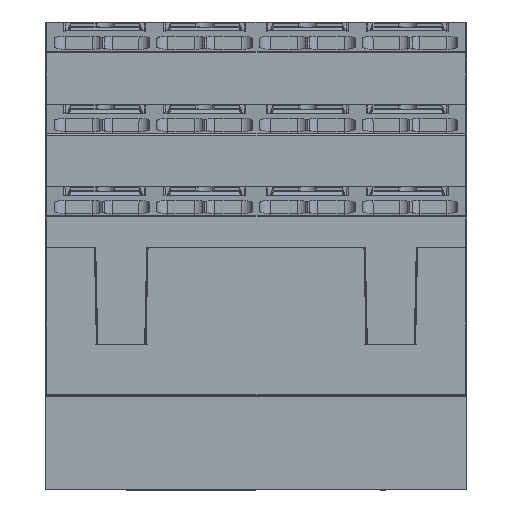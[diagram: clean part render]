
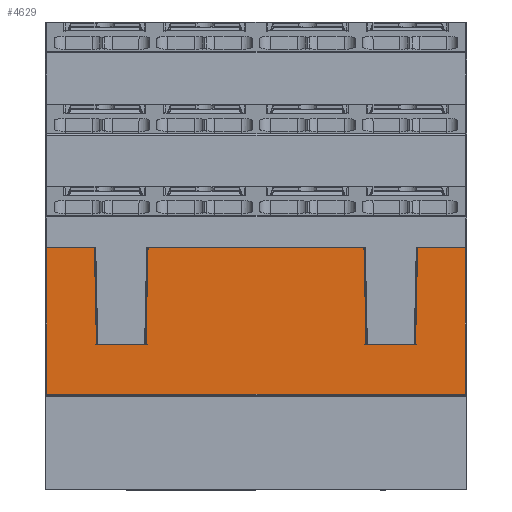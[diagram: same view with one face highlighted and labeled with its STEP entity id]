
A CAD part, left-side view. The second image highlights one B-rep face of the part: STEP entity #4629.
In plain terms, the highlighted planar face has unit normal (-1, 0, 0.009).
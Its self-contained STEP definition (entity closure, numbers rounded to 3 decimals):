
#1723=FACE_OUTER_BOUND('',#24345,.T.);
#4629=ADVANCED_FACE('',(#1723),#7486,.T.);
#7486=PLANE('',#58984);
#11209=LINE('',#82412,#18209);
#11214=LINE('',#82427,#18214);
#11221=LINE('',#82444,#18221);
#11225=LINE('',#82454,#18225);
#11226=LINE('',#82456,#18226);
#11227=LINE('',#82458,#18227);
#11228=LINE('',#82460,#18228);
#11229=LINE('',#82462,#18229);
#11230=LINE('',#82464,#18230);
#11231=LINE('',#82466,#18231);
#11232=LINE('',#82467,#18232);
#11233=LINE('',#82468,#18233);
#18209=VECTOR('',#65921,1.);
#18214=VECTOR('',#65934,1.);
#18221=VECTOR('',#65949,1.);
#18225=VECTOR('',#65959,1.);
#18226=VECTOR('',#65960,1.);
#18227=VECTOR('',#65961,1.);
#18228=VECTOR('',#65962,1.);
#18229=VECTOR('',#65963,1.);
#18230=VECTOR('',#65964,1.);
#18231=VECTOR('',#65965,1.);
#18232=VECTOR('',#65966,1.);
#18233=VECTOR('',#65967,1.);
#24345=EDGE_LOOP('',(#30218,#30219,#30220,#30221,#30222,#30223,#30224,#30225,
#30226,#30227,#30228,#30229));
#30218=ORIENTED_EDGE('',*,*,#51267,.F.);
#30219=ORIENTED_EDGE('',*,*,#51272,.T.);
#30220=ORIENTED_EDGE('',*,*,#51273,.T.);
#30221=ORIENTED_EDGE('',*,*,#51274,.T.);
#30222=ORIENTED_EDGE('',*,*,#51275,.T.);
#30223=ORIENTED_EDGE('',*,*,#51276,.T.);
#30224=ORIENTED_EDGE('',*,*,#51277,.F.);
#30225=ORIENTED_EDGE('',*,*,#51278,.T.);
#30226=ORIENTED_EDGE('',*,*,#51251,.F.);
#30227=ORIENTED_EDGE('',*,*,#51279,.T.);
#30228=ORIENTED_EDGE('',*,*,#51258,.F.);
#30229=ORIENTED_EDGE('',*,*,#51280,.T.);
#45409=VERTEX_POINT('',#82411);
#45410=VERTEX_POINT('',#82413);
#45415=VERTEX_POINT('',#82426);
#45416=VERTEX_POINT('',#82428);
#45421=VERTEX_POINT('',#82443);
#45422=VERTEX_POINT('',#82445);
#45425=VERTEX_POINT('',#82455);
#45426=VERTEX_POINT('',#82457);
#45427=VERTEX_POINT('',#82459);
#45428=VERTEX_POINT('',#82461);
#45429=VERTEX_POINT('',#82463);
#45430=VERTEX_POINT('',#82465);
#51251=EDGE_CURVE('',#45409,#45410,#11209,.T.);
#51258=EDGE_CURVE('',#45415,#45416,#11214,.T.);
#51267=EDGE_CURVE('',#45421,#45422,#11221,.T.);
#51272=EDGE_CURVE('',#45421,#45425,#11225,.T.);
#51273=EDGE_CURVE('',#45425,#45426,#11226,.T.);
#51274=EDGE_CURVE('',#45426,#45427,#11227,.T.);
#51275=EDGE_CURVE('',#45427,#45428,#11228,.T.);
#51276=EDGE_CURVE('',#45428,#45429,#11229,.T.);
#51277=EDGE_CURVE('',#45430,#45429,#11230,.T.);
#51278=EDGE_CURVE('',#45430,#45410,#11231,.T.);
#51279=EDGE_CURVE('',#45409,#45416,#11232,.T.);
#51280=EDGE_CURVE('',#45415,#45422,#11233,.T.);
#58984=AXIS2_PLACEMENT_3D('',#82469,#65968,#65969);
#65921=DIRECTION('',(0.,-1.,0.));
#65934=DIRECTION('',(0.,-1.,0.));
#65949=DIRECTION('',(0.,-1.,0.));
#65959=DIRECTION('',(0.009,0.021,1.));
#65960=DIRECTION('',(0.,1.,0.));
#65961=DIRECTION('',(-0.009,0.,-1.));
#65962=DIRECTION('',(0.,-1.,0.));
#65963=DIRECTION('',(0.009,0.,1.));
#65964=DIRECTION('',(0.,-1.,0.));
#65965=DIRECTION('',(-0.009,0.021,-1.));
#65966=DIRECTION('',(0.009,0.021,1.));
#65967=DIRECTION('',(-0.009,0.021,-1.));
#65968=DIRECTION('',(-1.,0.,0.009));
#65969=DIRECTION('',(0.009,0.,1.));
#82411=CARTESIAN_POINT('',(-46.868,-8.038,10.9));
#82412=CARTESIAN_POINT('',(-46.868,12.2,10.9));
#82413=CARTESIAN_POINT('',(-46.868,-11.662,10.9));
#82426=CARTESIAN_POINT('',(-46.806,7.889,18.));
#82427=CARTESIAN_POINT('',(-46.806,-30.2,18.));
#82428=CARTESIAN_POINT('',(-46.806,-7.889,18.));
#82443=CARTESIAN_POINT('',(-46.868,11.662,10.9));
#82444=CARTESIAN_POINT('',(-46.868,12.2,10.9));
#82445=CARTESIAN_POINT('',(-46.868,8.038,10.9));
#82454=CARTESIAN_POINT('',(-46.806,11.811,17.997));
#82455=CARTESIAN_POINT('',(-46.806,11.811,18.));
#82456=CARTESIAN_POINT('',(-46.806,0.,18.));
#82457=CARTESIAN_POINT('',(-46.806,15.3,18.));
#82458=CARTESIAN_POINT('',(-46.9,15.3,7.2));
#82459=CARTESIAN_POINT('',(-46.899,15.3,7.301));
#82460=CARTESIAN_POINT('',(-46.899,0.,7.301));
#82461=CARTESIAN_POINT('',(-46.899,-15.3,7.301));
#82462=CARTESIAN_POINT('',(-46.806,-15.3,18.));
#82463=CARTESIAN_POINT('',(-46.806,-15.3,18.));
#82464=CARTESIAN_POINT('',(-46.806,-30.2,18.));
#82465=CARTESIAN_POINT('',(-46.806,-11.811,18.));
#82466=CARTESIAN_POINT('',(-46.868,-11.662,10.897));
#82467=CARTESIAN_POINT('',(-46.806,-7.889,17.997));
#82468=CARTESIAN_POINT('',(-46.868,8.038,10.897));
#82469=CARTESIAN_POINT('',(-46.9,0.,7.2));
